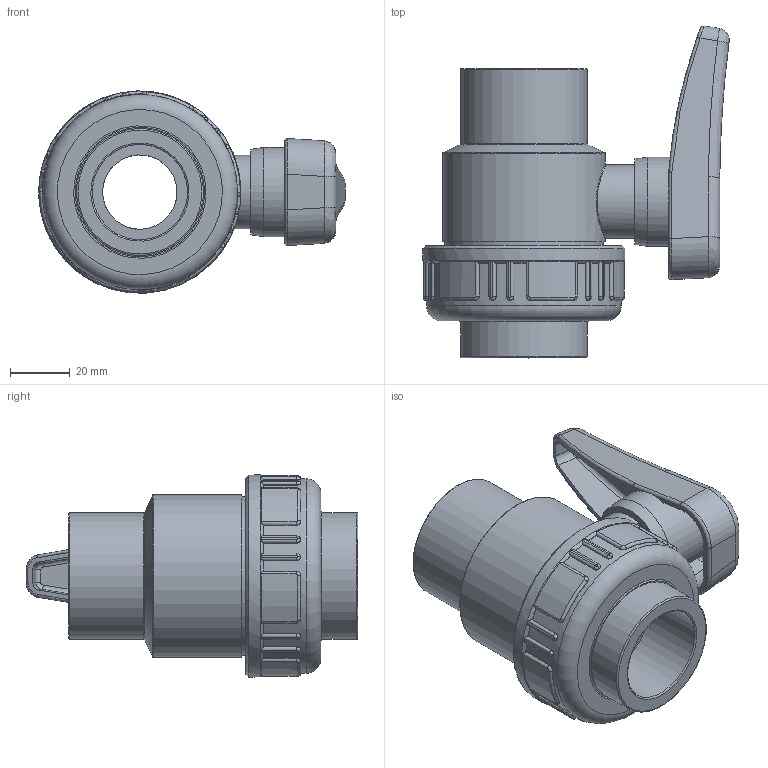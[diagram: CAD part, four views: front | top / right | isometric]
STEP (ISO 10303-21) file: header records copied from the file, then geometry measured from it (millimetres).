
FILE_DESCRIPTION(/* description */ (''),/* implementation_level */ '2;1');
FILE_NAME(/* name */ 'C:\Users\POLYPIPE\Desktop\DATASET INVENTOR\LIBRERIA EFFAST\3D_VALVOLE\3D_VALVOLE A SFERA\3D_SV\3D_BDRSVD\3D_BDRSVD0320.stp',/* time_stamp */ '2018-01-23T16:32:42+01:00',/* author */ ('POLYPIPE'),/* organization */ (''),/* preprocessor_version */ 'ST-DEVELOPER v16.1',/* originating_system */ 'Autodesk Inventor 2016',/* authorisation */ '');
FILE_SCHEMA (('CONFIG_CONTROL_DESIGN'));
Length unit declared in the file: centimetre
Products named in the file (1): 3D_BDRSVD0320
Bounding box: 103 x 111.56 x 67.95 mm (x, y, z)
Volume: 179432.6 mm3; surface area: 54909.4 mm2
Topology: 2 solids, 2 shells, 351 faces, 876 edges, 537 vertices
Faces by surface type: cylinder 114, plane 105, bspline 99, torus 22, sphere 7, cone 4
Full cylindrical faces by diameter (mm): 15.8 x1, 24.7 x1, 25 x2, 30 x1, 32 x2, 40.2 x1, 42.6 x1, 42.7 x1, 43.5 x1, 44.5 x1, 51 x1, 53.3 x1, 54.7 x1, 56.7 x1, 65.5 x1, 68 x1
Entity records: 33488 total; most frequent: CARTESIAN_POINT 25343, ORIENTED_EDGE 1678, DIRECTION 1476, EDGE_CURVE 839, AXIS2_PLACEMENT_3D 584, VERTEX_POINT 531, EDGE_LOOP 396, STYLED_ITEM 353
